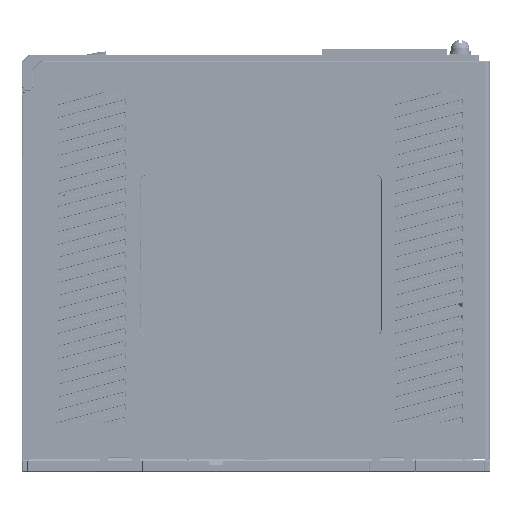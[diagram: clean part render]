
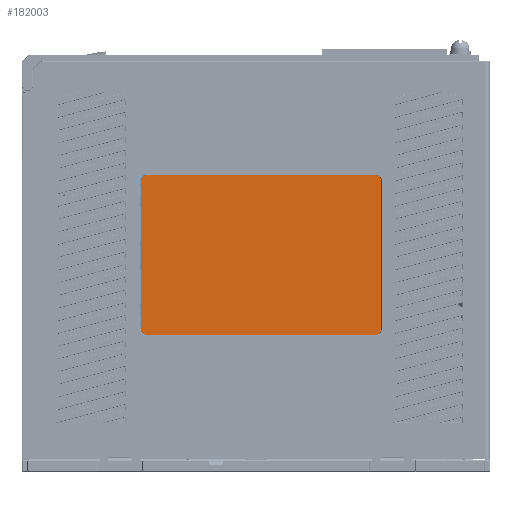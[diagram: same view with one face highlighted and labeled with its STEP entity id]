
A CAD part, left-side view. The second image highlights one B-rep face of the part: STEP entity #182003.
In plain terms, the highlighted planar face has unit normal (-1, 0, 0) as drawn and (0, 0, -1) by its records, which use the part's own axes.
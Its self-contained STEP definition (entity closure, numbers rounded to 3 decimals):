
#148499=CARTESIAN_POINT('',(-43.1,-53.3,-19.5));
#148508=CARTESIAN_POINT('',(-43.1,-108.9,
-19.5));
#148510=DIRECTION('',(0.,1.,0.));
#148511=VECTOR('',#148510,55.6);
#148512=CARTESIAN_POINT('',(-43.1,-108.9,
-19.5));
#148513=LINE('',#148512,#148511);
#148517=CARTESIAN_POINT('',(-41.1,-110.9,-19.5));
#148526=CARTESIAN_POINT('',(44.9,-110.9,
-19.5));
#148528=DIRECTION('',(-1.,0.,0.));
#148529=VECTOR('',#148528,86.);
#148530=CARTESIAN_POINT('',(44.9,-110.9,
-19.5));
#148531=LINE('',#148530,#148529);
#148535=CARTESIAN_POINT('',(46.9,-108.9,-19.5));
#148544=CARTESIAN_POINT('',(46.9,-53.3,
-19.5));
#148546=DIRECTION('',(0.,-1.,0.));
#148547=VECTOR('',#148546,55.6);
#148548=CARTESIAN_POINT('',(46.9,-53.3,
-19.5));
#148549=LINE('',#148548,#148547);
#148553=CARTESIAN_POINT('',(44.9,-51.3,-19.5));
#148564=DIRECTION('',(1.,0.,0.));
#148565=VECTOR('',#148564,86.);
#148566=CARTESIAN_POINT('',(-41.1,-51.3,
-19.5));
#148567=LINE('',#148566,#148565);
#148568=CARTESIAN_POINT('',(-41.1,-53.3,
-19.5));
#148569=DIRECTION('',(0.,0.,1.));
#148570=DIRECTION('',(0.,1.,0.));
#148571=AXIS2_PLACEMENT_3D('',#148568,#148569,#148570);
#148573=CARTESIAN_POINT('',(-41.1,-108.9,
-19.5));
#148574=DIRECTION('',(0.,0.,1.));
#148575=DIRECTION('',(-1.,0.,0.));
#148576=AXIS2_PLACEMENT_3D('',#148573,#148574,#148575);
#148578=CARTESIAN_POINT('',(44.9,-108.9,
-19.5));
#148579=DIRECTION('',(0.,0.,1.));
#148580=DIRECTION('',(0.,-1.,0.));
#148581=AXIS2_PLACEMENT_3D('',#148578,#148579,#148580);
#148583=CARTESIAN_POINT('',(44.9,-53.3,
-19.5));
#148584=DIRECTION('',(0.,0.,1.));
#148585=DIRECTION('',(1.,0.,0.));
#148586=AXIS2_PLACEMENT_3D('',#148583,#148584,#148585);
#167913=VERTEX_POINT('',#148499);
#167914=CARTESIAN_POINT('',(-41.1,-51.3,
-19.5));
#167915=VERTEX_POINT('',#167914);
#167916=VERTEX_POINT('',#148508);
#167917=VERTEX_POINT('',#148517);
#167918=VERTEX_POINT('',#148526);
#167919=VERTEX_POINT('',#148535);
#167920=VERTEX_POINT('',#148544);
#167921=VERTEX_POINT('',#148553);
#181988=CARTESIAN_POINT('',(0.,-156.,-19.5));
#181989=DIRECTION('',(0.,0.,-1.));
#181990=DIRECTION('',(-1.,0.,0.));
#181991=AXIS2_PLACEMENT_3D('',#181988,#181989,#181990);
#181992=PLANE('',#181991);
#181993=ORIENTED_EDGE('',*,*,#181846,.T.);
#181994=ORIENTED_EDGE('',*,*,#181866,.F.);
#181995=ORIENTED_EDGE('',*,*,#181886,.T.);
#181996=ORIENTED_EDGE('',*,*,#181905,.F.);
#181997=ORIENTED_EDGE('',*,*,#181925,.T.);
#181998=ORIENTED_EDGE('',*,*,#181944,.F.);
#181999=ORIENTED_EDGE('',*,*,#181964,.T.);
#182000=ORIENTED_EDGE('',*,*,#181982,.F.);
#182001=EDGE_LOOP('',(#181993,#181994,#181995,#181996,#181997,#181998,#181999,
#182000));
#182002=FACE_OUTER_BOUND('',#182001,.F.);
#148572=CIRCLE('',#148571,2.);
#148577=CIRCLE('',#148576,2.);
#148582=CIRCLE('',#148581,2.);
#148587=CIRCLE('',#148586,2.);
#181846=EDGE_CURVE('',#167915,#167913,#148572,.T.);
#181866=EDGE_CURVE('',#167916,#167913,#148513,.T.);
#181886=EDGE_CURVE('',#167916,#167917,#148577,.T.);
#181905=EDGE_CURVE('',#167918,#167917,#148531,.T.);
#181925=EDGE_CURVE('',#167918,#167919,#148582,.T.);
#181944=EDGE_CURVE('',#167920,#167919,#148549,.T.);
#181964=EDGE_CURVE('',#167920,#167921,#148587,.T.);
#181982=EDGE_CURVE('',#167915,#167921,#148567,.T.);
#182003=ADVANCED_FACE('',(#182002),#181992,.T.);
